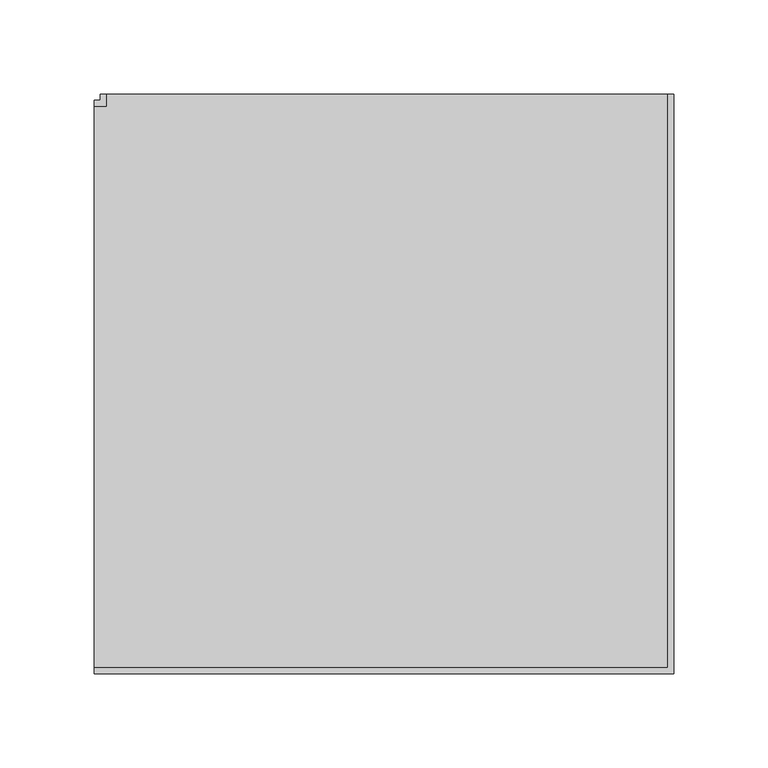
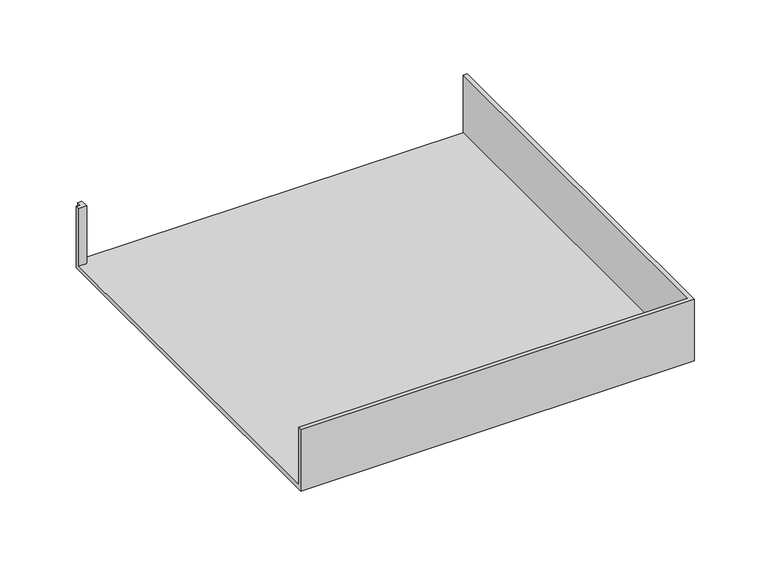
"""IFC4 building model written with IfcOpenShell, lengths in millimetres: cable carrier fitting geometry, Bend-Horizontal-Cablofil-Wire_Mesh_Cable_Tray : EZ T 90 KIT."""

from ifc_helpers import new_model, si_unit, origin, place, context, project, spatial, faceted_brep, source, transform, mapped, element, save


def cable_carrier_fitting_cf0266b7(model_context):
    return source(origin(), model_context, "Body", "Brep", [
        faceted_brep([(-155.575, -149.225, 25.4), (-155.575, -149.225, -22.225), (-155.575, 149.225, -22.225), (-155.575, 149.225, 25.4), (-155.575, 152.4, 25.4), (-155.575, 152.4, -25.4), (-155.575, -152.4, -25.4), (-155.575, -152.4, 25.4), (149.225, -149.225, 25.4), (149.225, -149.225, -22.225), (149.225, 155.575, -22.225), (-149.225, 155.575, -22.225), (-149.225, 149.225, -22.225), (-149.225, 149.225, 25.4), (-149.225, 155.575, 25.4), (-152.4, 155.575, 25.4), (-152.4, 152.4, 25.4), (-152.4, 152.4, -25.4), (-152.4, 155.575, -25.4), (152.4, 155.575, -25.4), (152.4, -152.4, -25.4), (152.4, -152.4, 25.4), (152.4, 155.575, 25.4), (149.225, 155.575, 25.4)], [[[0, 1, 2, 3, 4, 5, 6, 7]], [[1, 0, 8, 9]], [[2, 1, 9, 10, 11, 12]], [[3, 2, 12, 13]], [[4, 3, 13, 14, 15, 16]], [[5, 4, 16, 17]], [[6, 5, 17, 18, 19, 20]], [[7, 6, 20, 21]], [[0, 7, 21, 22, 23, 8]], [[23, 22, 19, 18, 15, 14, 11, 10]], [[9, 8, 23, 10]], [[13, 12, 11, 14]], [[17, 16, 15, 18]], [[21, 20, 19, 22]]]),
    ])


if __name__ == "__main__":
    model = new_model("IFC4")
    model_context = context("Model", 3, world=origin())
    ifc_project = project(units=[si_unit("LENGTHUNIT", "METRE", prefix="MILLI")], contexts=[model_context])
    site = spatial("IfcSite", under=ifc_project)
    building = spatial("IfcBuilding", under=site)
    placement = place(None, origin())
    cable_carrier_fitting_shape = cable_carrier_fitting_cf0266b7(model_context)
    element("IfcCableCarrierFitting", 1, ObjectType="Bend-Horizontal-Cablofil-Wire_Mesh_Cable_Tray : EZ T 90 KIT", at=placement, inside=building, context=model_context, shape_type="MappedRepresentation", body=[
        mapped(cable_carrier_fitting_shape, transform((0.0, 0.0, 0.0), x_axis=(1.0, 0.0, 0.0), y_axis=(0.0, 1.0, 0.0), z_axis=(0.0, 0.0, 1.0))),
    ])
    save(model, "model.ifc")
